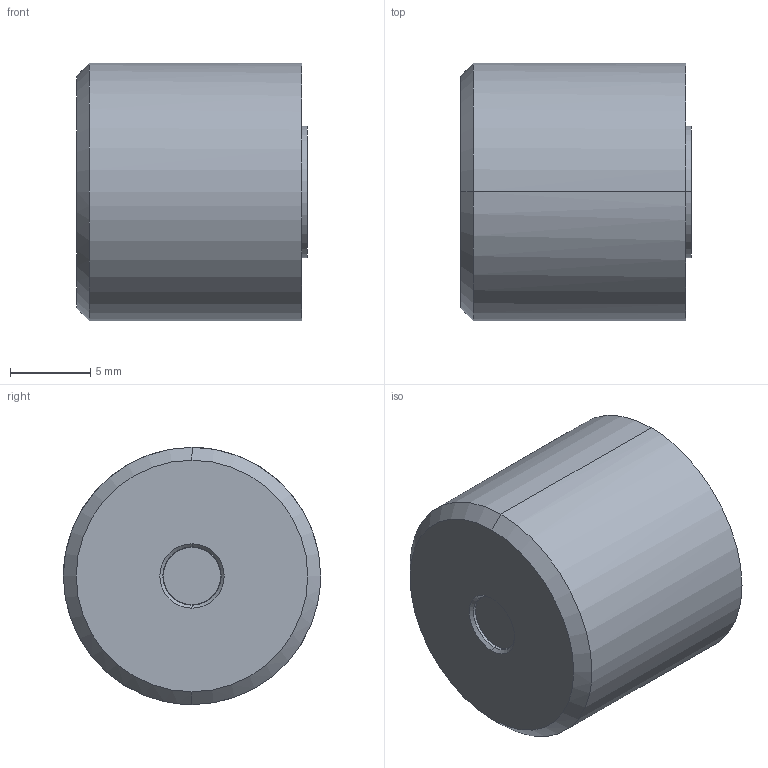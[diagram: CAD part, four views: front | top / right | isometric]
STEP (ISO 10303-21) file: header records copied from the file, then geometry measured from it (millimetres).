
FILE_DESCRIPTION(('CATIA V5 STEP Exchange'),'2;1');
FILE_NAME('C:\Users\Utente\Desktop\IO LAVORO\3D X SITO CF\X SITO\PLASTICA\D374\D374-16-A-DM-FA.stp','2021-03-30T10:30:49+00:00',('none'),('none'),'CATIA Version 5 Release 20 GA (IN-10)','CATIA V5 STEP AP203','none');
FILE_SCHEMA(('CONFIG_CONTROL_DESIGN'));
Length unit declared in the file: millimetre
Products named in the file (1): D374-16-A-DM-FA
Assembly tree (2 placements, depth 2):
  D374-16-A-DM-FA
    #58
    #6750
Bounding box: 14.35 x 16 x 16 mm (x, y, z)
Volume: 2485.1 mm3; surface area: 1740.8 mm2
Topology: 2 solids, 2 shells, 222 faces, 612 edges, 420 vertices
Faces by surface type: plane 137, cylinder 77, cone 8
Entity records: 7835 total; most frequent: CARTESIAN_POINT 2208, ORIENTED_EDGE 1224, DIRECTION 980, EDGE_CURVE 612, VERTEX_POINT 420, VECTOR 406, LINE 406, AXIS2_PLACEMENT_3D 349
